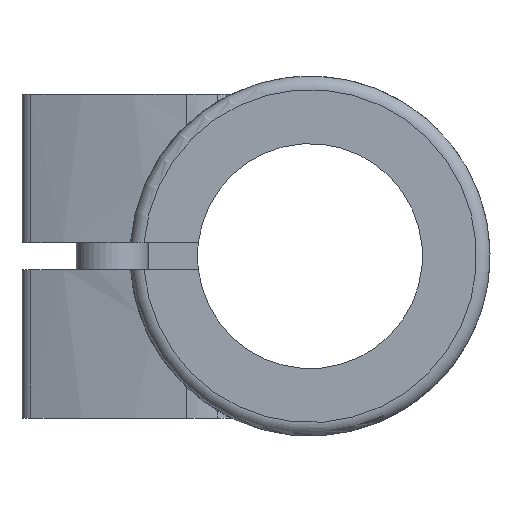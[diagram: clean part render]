
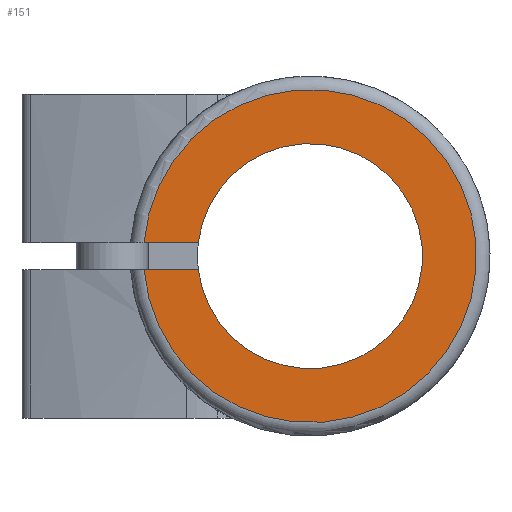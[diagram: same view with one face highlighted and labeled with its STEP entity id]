
A CAD part, left-side view. The second image highlights one B-rep face of the part: STEP entity #151.
In plain terms, the highlighted planar face has unit normal (-1, 0, 0).
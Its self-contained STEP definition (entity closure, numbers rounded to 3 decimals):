
#151 = ADVANCED_FACE( '', ( #411 ), #412, .F. );
#411 = FACE_OUTER_BOUND( '', #767, .T. );
#412 = PLANE( '', #768 );
#767 = EDGE_LOOP( '', ( #1644, #1645, #1646, #1647 ) );
#768 = AXIS2_PLACEMENT_3D( '', #1648, #1649, #1650 );
#1644 = ORIENTED_EDGE( '', *, *, #2591, .F. );
#1645 = ORIENTED_EDGE( '', *, *, #2546, .F. );
#1646 = ORIENTED_EDGE( '', *, *, #2593, .F. );
#1647 = ORIENTED_EDGE( '', *, *, #2556, .F. );
#1648 = CARTESIAN_POINT( '', ( 0., 0., 0. ) );
#1649 = DIRECTION( '', ( 1., 0., 0. ) );
#1650 = DIRECTION( '', ( 0., 0., -1. ) );
#2546 = EDGE_CURVE( '', #3180, #3181, #3182, .T. );
#2556 = EDGE_CURVE( '', #3195, #3197, #3198, .T. );
#2591 = EDGE_CURVE( '', #3181, #3195, #3260, .F. );
#2593 = EDGE_CURVE( '', #3197, #3180, #3262, .T. );
#3180 = VERTEX_POINT( '', #4335 );
#3181 = VERTEX_POINT( '', #4336 );
#3182 = LINE( '', #4337, #4338 );
#3195 = VERTEX_POINT( '', #4368 );
#3197 = VERTEX_POINT( '', #4371 );
#3198 = LINE( '', #4372, #4373 );
#3260 = CIRCLE( '', #4577, 12.5 );
#3262 = CIRCLE( '', #4579, 18.5 );
#4335 = CARTESIAN_POINT( '', ( 0., 18.439, -1.5 ) );
#4336 = CARTESIAN_POINT( '', ( 0., 12.41, -1.5 ) );
#4337 = CARTESIAN_POINT( '', ( 0., 0., -1.5 ) );
#4338 = VECTOR( '', #5280, 1000. );
#4368 = CARTESIAN_POINT( '', ( 0., 12.41, 1.5 ) );
#4371 = CARTESIAN_POINT( '', ( 0., 18.439, 1.5 ) );
#4372 = CARTESIAN_POINT( '', ( 0., 0., 1.5 ) );
#4373 = VECTOR( '', #5295, 1000. );
#4577 = AXIS2_PLACEMENT_3D( '', #5343, #5344, #5345 );
#4579 = AXIS2_PLACEMENT_3D( '', #5349, #5350, #5351 );
#5280 = DIRECTION( '', ( 0., -1., 0. ) );
#5295 = DIRECTION( '', ( 0., 1., 0. ) );
#5343 = CARTESIAN_POINT( '', ( 0., 0., 0. ) );
#5344 = DIRECTION( '', ( 1., 0., 0. ) );
#5345 = DIRECTION( '', ( 0., 0., -1. ) );
#5349 = CARTESIAN_POINT( '', ( 0., 0., 0. ) );
#5350 = DIRECTION( '', ( 1., 0., 0. ) );
#5351 = DIRECTION( '', ( 0., 0., -1. ) );
